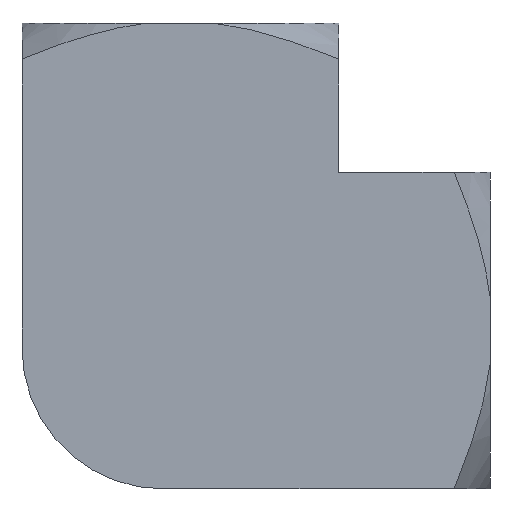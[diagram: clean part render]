
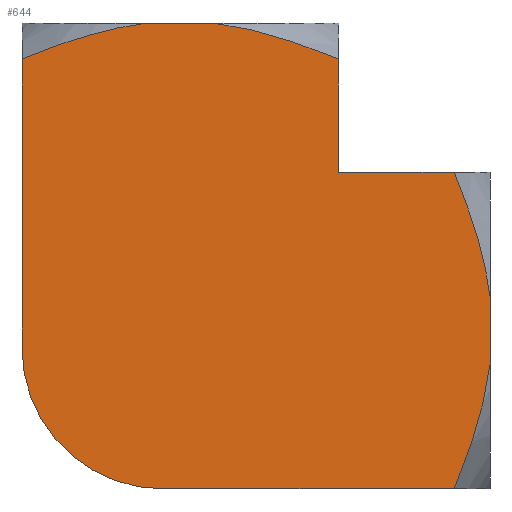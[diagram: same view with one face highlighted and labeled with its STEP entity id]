
A CAD part, front view. The second image highlights one B-rep face of the part: STEP entity #644.
In plain terms, the highlighted planar face has unit normal (0, -1, 0).
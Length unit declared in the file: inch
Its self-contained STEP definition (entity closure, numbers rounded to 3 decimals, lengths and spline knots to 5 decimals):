
#17=(
BOUNDED_CURVE()
B_SPLINE_CURVE(2,(#1124,#1125,#1126),.UNSPECIFIED.,.F.,.F.)
B_SPLINE_CURVE_WITH_KNOTS((3,3),(0.,0.58466),.UNSPECIFIED.)
CURVE()
GEOMETRIC_REPRESENTATION_ITEM()
RATIONAL_B_SPLINE_CURVE((1.,1.056,1.))
REPRESENTATION_ITEM('')
);
#18=(
BOUNDED_CURVE()
B_SPLINE_CURVE(2,(#1128,#1129,#1130),.UNSPECIFIED.,.F.,.F.)
B_SPLINE_CURVE_WITH_KNOTS((3,3),(0.,0.58466),.UNSPECIFIED.)
CURVE()
GEOMETRIC_REPRESENTATION_ITEM()
RATIONAL_B_SPLINE_CURVE((1.,1.056,1.))
REPRESENTATION_ITEM('')
);
#19=(
BOUNDED_CURVE()
B_SPLINE_CURVE(2,(#1135,#1136,#1137),.UNSPECIFIED.,.F.,.F.)
B_SPLINE_CURVE_WITH_KNOTS((3,3),(0.,0.58586),.UNSPECIFIED.)
CURVE()
GEOMETRIC_REPRESENTATION_ITEM()
RATIONAL_B_SPLINE_CURVE((1.,1.057,1.))
REPRESENTATION_ITEM('')
);
#20=(
BOUNDED_CURVE()
B_SPLINE_CURVE(2,(#1139,#1140,#1141),.UNSPECIFIED.,.F.,.F.)
B_SPLINE_CURVE_WITH_KNOTS((3,3),(0.,0.58586),.UNSPECIFIED.)
CURVE()
GEOMETRIC_REPRESENTATION_ITEM()
RATIONAL_B_SPLINE_CURVE((1.,1.057,1.))
REPRESENTATION_ITEM('')
);
#52=PLANE('',#729);
#88=FACE_OUTER_BOUND('',#129,.T.);
#129=EDGE_LOOP('',(#516,#517,#518,#519,#520,#521,#522,#523,#524,#525,#526,
#527,#528));
#151=LINE('',#973,#186);
#158=LINE('',#1008,#193);
#164=LINE('',#1104,#199);
#170=LINE('',#1123,#205);
#171=LINE('',#1132,#206);
#172=LINE('',#1134,#207);
#173=LINE('',#1143,#208);
#174=LINE('',#1144,#209);
#186=VECTOR('',#779,0.3937);
#193=VECTOR('',#812,0.3937);
#199=VECTOR('',#878,0.3937);
#205=VECTOR('',#886,0.3937);
#206=VECTOR('',#887,0.3937);
#207=VECTOR('',#888,0.3937);
#208=VECTOR('',#889,0.3937);
#209=VECTOR('',#890,0.3937);
#243=CIRCLE('',#726,0.25);
#260=VERTEX_POINT('',#970);
#261=VERTEX_POINT('',#972);
#275=VERTEX_POINT('',#1005);
#276=VERTEX_POINT('',#1007);
#292=VERTEX_POINT('',#1094);
#293=VERTEX_POINT('',#1095);
#296=VERTEX_POINT('',#1103);
#302=VERTEX_POINT('',#1122);
#303=VERTEX_POINT('',#1127);
#304=VERTEX_POINT('',#1131);
#305=VERTEX_POINT('',#1133);
#306=VERTEX_POINT('',#1138);
#307=VERTEX_POINT('',#1142);
#327=EDGE_CURVE('',#260,#261,#151,.T.);
#344=EDGE_CURVE('',#275,#276,#158,.T.);
#369=EDGE_CURVE('',#292,#293,#243,.T.);
#373=EDGE_CURVE('',#293,#296,#164,.T.);
#381=EDGE_CURVE('',#302,#292,#170,.T.);
#382=EDGE_CURVE('',#276,#302,#17,.T.);
#383=EDGE_CURVE('',#303,#275,#18,.T.);
#384=EDGE_CURVE('',#303,#304,#171,.T.);
#385=EDGE_CURVE('',#305,#304,#172,.T.);
#386=EDGE_CURVE('',#261,#305,#19,.T.);
#387=EDGE_CURVE('',#306,#260,#20,.T.);
#388=EDGE_CURVE('',#307,#306,#173,.T.);
#389=EDGE_CURVE('',#307,#296,#174,.T.);
#516=ORIENTED_EDGE('',*,*,#369,.F.);
#517=ORIENTED_EDGE('',*,*,#381,.F.);
#518=ORIENTED_EDGE('',*,*,#382,.F.);
#519=ORIENTED_EDGE('',*,*,#344,.F.);
#520=ORIENTED_EDGE('',*,*,#383,.F.);
#521=ORIENTED_EDGE('',*,*,#384,.T.);
#522=ORIENTED_EDGE('',*,*,#385,.F.);
#523=ORIENTED_EDGE('',*,*,#386,.F.);
#524=ORIENTED_EDGE('',*,*,#327,.F.);
#525=ORIENTED_EDGE('',*,*,#387,.F.);
#526=ORIENTED_EDGE('',*,*,#388,.F.);
#527=ORIENTED_EDGE('',*,*,#389,.T.);
#528=ORIENTED_EDGE('',*,*,#373,.F.);
#644=ADVANCED_FACE('',(#88),#52,.F.);
#726=AXIS2_PLACEMENT_3D('',#1096,#870,#871);
#729=AXIS2_PLACEMENT_3D('',#1121,#884,#885);
#779=DIRECTION('',(1.,0.,0.));
#812=DIRECTION('',(0.,0.,-1.));
#870=DIRECTION('center_axis',(0.,1.,0.));
#871=DIRECTION('ref_axis',(-0.707,0.,-0.707));
#878=DIRECTION('',(0.,0.,1.));
#884=DIRECTION('center_axis',(0.,1.,0.));
#885=DIRECTION('ref_axis',(0.,0.,-1.));
#886=DIRECTION('',(-1.,0.,0.));
#887=DIRECTION('',(-1.,0.,0.));
#888=DIRECTION('',(0.,0.,-1.));
#889=DIRECTION('',(0.,0.,1.));
#890=DIRECTION('',(-1.,0.,0.));
#970=CARTESIAN_POINT('',(-0.05959,-0.281,0.546));
#972=CARTESIAN_POINT('',(0.05959,-0.281,0.546));
#973=CARTESIAN_POINT('',(-0.1405,-0.281,0.546));
#1005=CARTESIAN_POINT('',(0.55,-0.281,0.06029));
#1007=CARTESIAN_POINT('',(0.55,-0.281,-0.06029));
#1008=CARTESIAN_POINT('',(0.55,-0.281,0.1405));
#1094=CARTESIAN_POINT('',(-0.031,-0.281,-0.281));
#1095=CARTESIAN_POINT('',(-0.281,-0.281,-0.031));
#1096=CARTESIAN_POINT('Origin',(-0.031,-0.281,-0.031));
#1103=CARTESIAN_POINT('',(-0.281,-0.281,0.281));
#1104=CARTESIAN_POINT('',(-0.281,-0.281,0.1405));
#1121=CARTESIAN_POINT('Origin',(0.55,-0.281,0.281));
#1122=CARTESIAN_POINT('',(0.48649,-0.281,-0.281));
#1123=CARTESIAN_POINT('',(0.,-0.281,-0.281));
#1124=CARTESIAN_POINT('Ctrl Pts',(0.55,-0.281,-0.06029));
#1125=CARTESIAN_POINT('Ctrl Pts',(0.53878,-0.281,-0.15292));
#1126=CARTESIAN_POINT('Ctrl Pts',(0.48649,-0.281,-0.281));
#1127=CARTESIAN_POINT('',(0.48649,-0.281,0.281));
#1128=CARTESIAN_POINT('Ctrl Pts',(0.48649,-0.281,0.281));
#1129=CARTESIAN_POINT('Ctrl Pts',(0.53878,-0.281,0.15292));
#1130=CARTESIAN_POINT('Ctrl Pts',(0.55,-0.281,0.06029));
#1131=CARTESIAN_POINT('',(0.2808,-0.281,0.281));
#1132=CARTESIAN_POINT('',(0.,-0.281,0.281));
#1133=CARTESIAN_POINT('',(0.2808,-0.281,0.48249));
#1134=CARTESIAN_POINT('',(0.2808,-0.281,0.281));
#1135=CARTESIAN_POINT('Ctrl Pts',(0.05959,-0.281,0.546));
#1136=CARTESIAN_POINT('Ctrl Pts',(0.15242,-0.281,0.53488));
#1137=CARTESIAN_POINT('Ctrl Pts',(0.2808,-0.281,0.48249));
#1138=CARTESIAN_POINT('',(-0.2808,-0.281,0.48249));
#1139=CARTESIAN_POINT('Ctrl Pts',(-0.2808,-0.281,0.48249));
#1140=CARTESIAN_POINT('Ctrl Pts',(-0.15242,-0.281,0.53488));
#1141=CARTESIAN_POINT('Ctrl Pts',(-0.05959,-0.281,0.546));
#1142=CARTESIAN_POINT('',(-0.2808,-0.281,0.281));
#1143=CARTESIAN_POINT('',(-0.2808,-0.281,0.281));
#1144=CARTESIAN_POINT('',(0.,-0.281,0.281));
